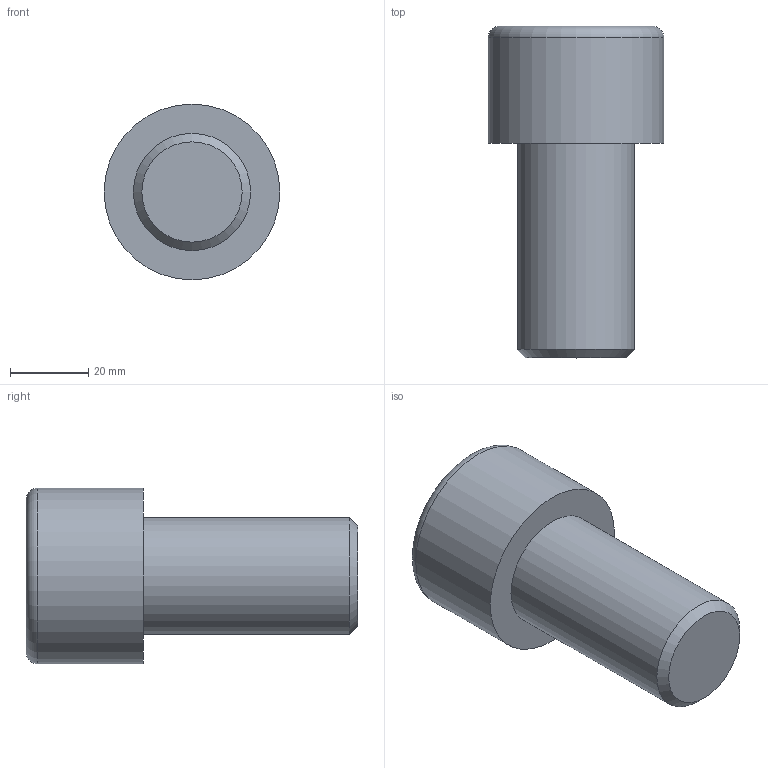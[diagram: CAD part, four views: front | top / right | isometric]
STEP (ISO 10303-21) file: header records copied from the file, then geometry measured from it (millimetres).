
FILE_DESCRIPTION(/* description */ (''),/* implementation_level */ '2;1');
FILE_NAME(/* name */ 'C:\Users\D\Documents\Inventor\各種小物\JIS\JIS B 1176 六角穴付きボルト\M30x55.stp',/* time_stamp */ '2022-05-09T19:02:02+09:00',/* author */ ('D'),/* organization */ (''),/* preprocessor_version */ 'ST-DEVELOPER v18',/* originating_system */ 'Autodesk Inventor 2020',/* authorisation */ '');
FILE_SCHEMA (('AUTOMOTIVE_DESIGN { 1 0 10303 214 3 1 1 }'));
Length unit declared in the file: millimetre
Products named in the file (1): M1.6x2.5
Bounding box: 45 x 85 x 45 mm (x, y, z)
Volume: 78415.9 mm3; surface area: 13590.2 mm2
Topology: 1 solids, 1 shells, 14 faces, 33 edges, 22 vertices
Faces by surface type: plane 9, cone 2, cylinder 2, torus 1
Full cylindrical faces by diameter (mm): 30 x1, 45 x1
Entity records: 435 total; most frequent: CARTESIAN_POINT 83, ORIENTED_EDGE 64, DIRECTION 64, EDGE_CURVE 32, AXIS2_PLACEMENT_3D 24, VERTEX_POINT 22, EDGE_LOOP 16, LINE 16
